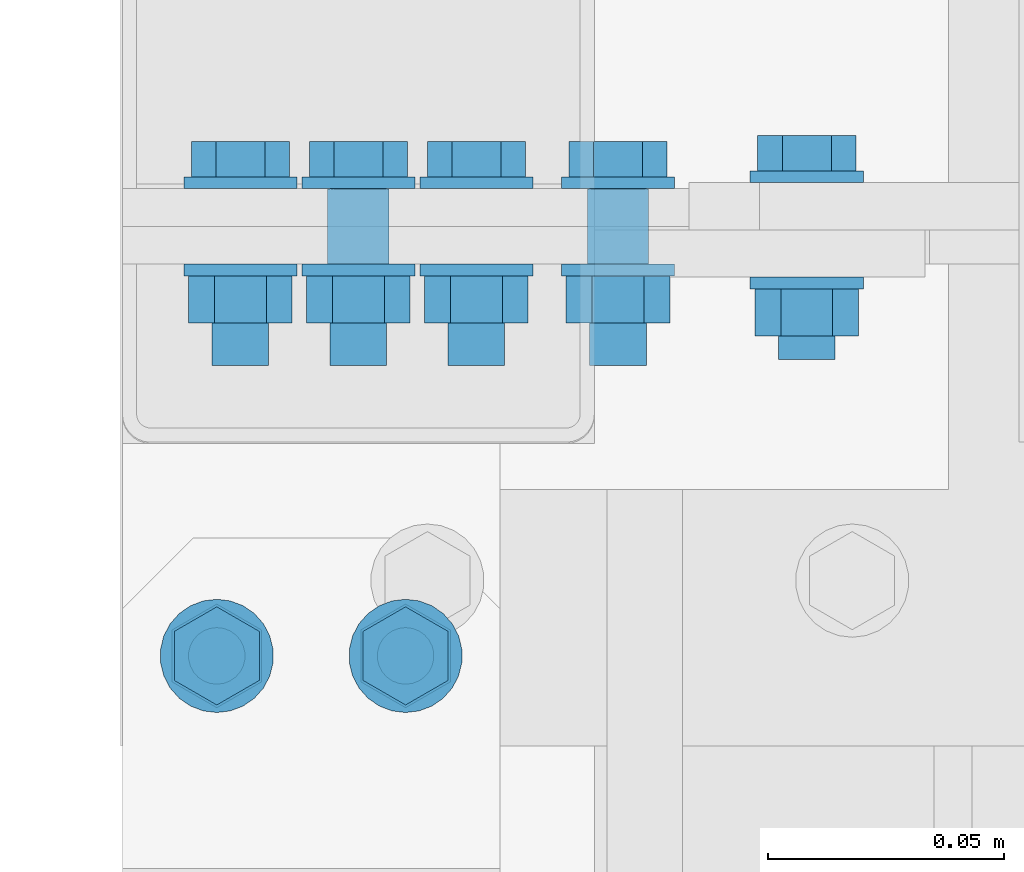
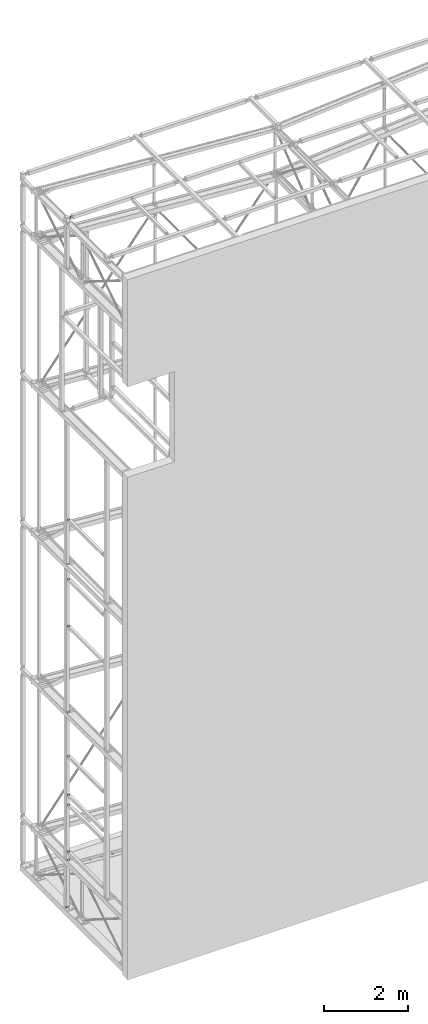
# One storey, part 235 of 271: 13 mechanical fasteners, 13 elements without a shape of their own.
"""IFC2X3 building model written with IfcOpenShell, lengths in millimetres."""

import ifcopenshell
import ifcopenshell.guid

model = None  # the IFC model being written
_history = None  # IfcOwnerHistory: only IFC2X3 demands one
_inside = {}  # id of a spatial element -> (the spatial element, [elements in it])
_under = {}  # id of a project, library or spatial element -> (it, [spatial elements below it])
_declared = {}  # id of a project -> (the project, [libraries it declares])
_typed = {}  # id of a type object -> (the type object, [elements of that type])
_made_of = {}  # id of a material, layer set ... -> (it, [elements and type objects made of it])


def new_model(schema):
    """Start an empty IFC model of exactly this schema.

    Asked for "IFC4X3", IfcOpenShell would pick the latest addendum, in which some entities
    have other attributes; the version numbers below select the first issue.
    IFC2X3 requires an IfcOwnerHistory on every rooted entity: one is made here for all.
    """
    global model, _history
    if schema == "IFC4X3":
        model = ifcopenshell.file(schema_version=(4, 3, 0, 0))
    else:
        model = ifcopenshell.file(schema=schema)
    _inside.clear()
    _under.clear()
    _declared.clear()
    _typed.clear()
    _made_of.clear()
    _history = None
    if model.schema == "IFC2X3":
        org = make("IfcOrganization", Name="unknown")
        user = make(
            "IfcPersonAndOrganization",
            ThePerson=make("IfcPerson", FamilyName="unknown"),
            TheOrganization=org,
        )
        app = make(
            "IfcApplication",
            ApplicationDeveloper=org,
            Version="unknown",
            ApplicationFullName="unknown",
            ApplicationIdentifier="unknown",
        )
        _history = make(
            "IfcOwnerHistory",
            OwningUser=user,
            OwningApplication=app,
            ChangeAction="ADDED",
            CreationDate=0,
        )
    return model


def make(cls, **values):
    """One entity of the class cls with the attributes given. An attribute that is None is left unset."""
    return model.create_entity(
        cls, **{name: value for name, value in values.items() if value is not None}
    )


def rooted(cls, **values):
    """An entity with a GlobalId (a new one), such as an element, a storey or a relation."""
    return make(cls, GlobalId=ifcopenshell.guid.new(), OwnerHistory=_history, **values)


def si_unit(unit_type, name, prefix=None):
    """IfcSIUnit, for example si_unit("LENGTHUNIT", "METRE", prefix="MILLI")."""
    return make("IfcSIUnit", UnitType=unit_type, Prefix=prefix, Name=name)


def assignment(units):
    """IfcUnitAssignment: the units of a project."""
    return None if units is None else make("IfcUnitAssignment", Units=units)


def point(xyz):
    """IfcCartesianPoint."""
    return None if xyz is None else make("IfcCartesianPoint", Coordinates=xyz)


def direction(xyz):
    """IfcDirection."""
    return None if xyz is None else make("IfcDirection", DirectionRatios=xyz)


def frame(location, z_axis=None, x_axis=None):
    """IfcAxis2Placement3D, a coordinate frame: its origin and axes. An axis left out is left unset."""
    return make(
        "IfcAxis2Placement3D",
        Location=point(location),
        Axis=direction(z_axis),
        RefDirection=direction(x_axis),
    )


def frame_2d(location, x_axis=None):
    """IfcAxis2Placement2D, a coordinate frame in the plane: its origin and x axis."""
    return make(
        "IfcAxis2Placement2D", Location=point(location), RefDirection=direction(x_axis)
    )


def origin_with_axes():
    """The frame at (0, 0, 0) with the z axis (0, 0, 1) and the x axis (1, 0, 0) written out."""
    return frame((0.0, 0.0, 0.0), z_axis=(0.0, 0.0, 1.0), x_axis=(1.0, 0.0, 0.0))


def origin_2d_with_axis():
    """The frame at (0, 0) in the plane with the x axis (1, 0) written out."""
    return frame_2d((0.0, 0.0), x_axis=(1.0, 0.0))


def place(relative_to, where):
    """IfcLocalPlacement: puts the frame where relative to a parent placement (None: the world)."""
    return make(
        "IfcLocalPlacement", PlacementRelTo=relative_to, RelativePlacement=where
    )


def context(
    kind, dimensions, precision=None, world=None, true_north=None, identifier=None
):
    """IfcGeometricRepresentationContext, for example the 3D "Model" context."""
    return make(
        "IfcGeometricRepresentationContext",
        ContextIdentifier=identifier,
        ContextType=kind,
        CoordinateSpaceDimension=dimensions,
        Precision=precision,
        WorldCoordinateSystem=world,
        TrueNorth=true_north,
    )


def subcontext(parent, identifier, kind, view, scale=None):
    """IfcGeometricRepresentationSubContext, for example "Body" below "Model"."""
    return make(
        "IfcGeometricRepresentationSubContext",
        ContextIdentifier=identifier,
        ContextType=kind,
        ParentContext=parent,
        TargetScale=scale,
        TargetView=view,
    )


def project(units=None, contexts=None):
    """IfcProject with its units and contexts."""
    return rooted(
        "IfcProject",
        Name="project",
        RepresentationContexts=contexts,
        UnitsInContext=assignment(units),
    )


def spatial(cls, under=None, at=None, **own):
    """A site, building, storey or space (cls), placed at a placement, below another one or the project."""
    s = rooted(cls, ObjectPlacement=at, **own)
    if under is not None:
        _under.setdefault(under.id(), (under, []))[1].append(s)
    return s


def polyline(points):
    """IfcPolyline through the points."""
    return make("IfcPolyline", Points=[point(p) for p in points])


def profile(cls, at=None, kind="AREA", **sizes):
    """A parametric profile (cls). Its sizes go by their IFC names, for example OverallWidth=200.0."""
    return make(cls, ProfileType=kind, Position=at, **sizes)


def circle(**sizes):
    """IfcCircleProfileDef."""
    return profile("IfcCircleProfileDef", **sizes)


def outline(outer, holes=None, kind="AREA"):
    """IfcArbitraryClosedProfileDef: a profile drawn as a closed curve; with holes, ...WithVoids."""
    if holes is None:
        return make("IfcArbitraryClosedProfileDef", ProfileType=kind, OuterCurve=outer)
    return make(
        "IfcArbitraryProfileDefWithVoids",
        ProfileType=kind,
        OuterCurve=outer,
        InnerCurves=holes,
    )


def extrude(swept, where, along, depth):
    """IfcExtrudedAreaSolid: the profile swept, set in the frame where, extruded along a direction by depth."""
    return make(
        "IfcExtrudedAreaSolid",
        SweptArea=swept,
        Position=where,
        ExtrudedDirection=direction(along),
        Depth=depth,
    )


def shape(context_of_items, identifier, shape_type, items):
    """IfcShapeRepresentation: the items that make up one representation, for example the "Body"."""
    return make(
        "IfcShapeRepresentation",
        ContextOfItems=context_of_items,
        RepresentationIdentifier=identifier,
        RepresentationType=shape_type,
        Items=items,
    )


def source(mapping_origin, context_of_items, identifier, shape_type, items):
    """IfcRepresentationMap: a shape defined once, which mapped items show again and again."""
    return make(
        "IfcRepresentationMap",
        MappingOrigin=mapping_origin,
        MappedRepresentation=shape(context_of_items, identifier, shape_type, items),
    )


def transform(
    local_origin,
    x_axis=None,
    y_axis=None,
    z_axis=None,
    scale=None,
    scale2=None,
    scale3=None,
    uniform=True,
):
    """IfcCartesianTransformationOperator3D, or its non-uniform kind. x_axis, y_axis, z_axis: its Axis1, 2, 3."""
    if uniform:
        return make(
            "IfcCartesianTransformationOperator3D",
            Axis1=direction(x_axis),
            Axis2=direction(y_axis),
            LocalOrigin=point(local_origin),
            Scale=scale,
            Axis3=direction(z_axis),
        )
    return make(
        "IfcCartesianTransformationOperator3DnonUniform",
        Axis1=direction(x_axis),
        Axis2=direction(y_axis),
        LocalOrigin=point(local_origin),
        Scale=scale,
        Axis3=direction(z_axis),
        Scale2=scale2,
        Scale3=scale3,
    )


def mapped(mapping_source, mapping_target):
    """IfcMappedItem: shows the shape of a source again, moved by a transform."""
    return make(
        "IfcMappedItem", MappingSource=mapping_source, MappingTarget=mapping_target
    )


def material(Name=None, Category=None):
    """IfcMaterial."""
    return make("IfcMaterial", Name=Name, Category=Category)


def made_of(thing, what):
    """Note that an element or type object is made of a material, layer set ...; save() writes the relation."""
    if what is not None:
        _made_of.setdefault(what.id(), (what, []))[1].append(thing)
    return thing


def type_object(cls, material=None, **own):
    """A type object (cls), such as IfcWallType, which elements share."""
    return made_of(rooted(cls, **own), material)


def element(
    cls,
    number,
    at=None,
    inside=None,
    cuts=None,
    type_object=None,
    material=None,
    context=None,
    identifier="Body",
    shape_type=None,
    held_by="IfcProductDefinitionShape",
    body=None,
    shapes=None,
    **own,
):
    """One element of the class cls, such as IfcWall. Its Tag is "e" and its number.

    at: its placement. inside: the storey or other place that contains it. cuts: it is an
    opening in that element (IfcRelVoidsElement). A single representation is given by context,
    identifier, shape_type and body (its items); several are given by shapes. held_by: the class
    of the entity that holds the representations. save() writes the other relations.
    """
    e = rooted(cls, Tag="e%d" % number, ObjectPlacement=at, **own)
    if body is not None:
        shapes = [shape(context, identifier, shape_type, body)]
    if shapes is not None:
        e.Representation = make(held_by, Representations=shapes)
    if inside is not None:
        _inside.setdefault(inside.id(), (inside, []))[1].append(e)
    if cuts is not None:
        rooted(
            "IfcRelVoidsElement", RelatingBuildingElement=cuts, RelatedOpeningElement=e
        )
    if type_object is not None:
        _typed.setdefault(type_object.id(), (type_object, []))[1].append(e)
    return made_of(e, material)


def aggregate(whole, parts):
    """IfcRelAggregates: a whole, such as a stair, and the parts it consists of."""
    return rooted("IfcRelAggregates", RelatingObject=whole, RelatedObjects=parts)


def save(model, path):
    """Write the relations noted so far, then the file.

    IfcRelAggregates (storeys below a building ...), IfcRelContainedInSpatialStructure (elements
    in a storey), IfcRelDefinesByType, IfcRelAssociatesMaterial and IfcRelDeclares: one each for
    every whole, place, type object, material and project.
    """
    for whole, parts in _under.values():
        aggregate(whole, parts)
    for where, things in _inside.values():
        rooted(
            "IfcRelContainedInSpatialStructure",
            RelatedElements=things,
            RelatingStructure=where,
        )
    for kind, things in _typed.values():
        rooted("IfcRelDefinesByType", RelatedObjects=things, RelatingType=kind)
    for what, things in _made_of.values():
        rooted("IfcRelAssociatesMaterial", RelatedObjects=things, RelatingMaterial=what)
    for by, libraries in _declared.values():
        rooted("IfcRelDeclares", RelatingContext=by, RelatedDefinitions=libraries)
    model.write(path)


model = new_model("IFC2X3")

# Units and contexts
model_context = context("Model", 3, precision=1e-05, world=origin_with_axes())
body_context = subcontext(model_context, "Body", "Model", "MODEL_VIEW")
ifc_project = project(units=[si_unit("LENGTHUNIT", "METRE", prefix="MILLI"), si_unit("AREAUNIT", "SQUARE_METRE"), si_unit("VOLUMEUNIT", "CUBIC_METRE"), si_unit("MASSUNIT", "GRAM", prefix="KILO"), si_unit("TIMEUNIT", "SECOND"), si_unit("PLANEANGLEUNIT", "RADIAN"), si_unit("SOLIDANGLEUNIT", "STERADIAN"), si_unit("THERMODYNAMICTEMPERATUREUNIT", "DEGREE_CELSIUS"), si_unit("LUMINOUSINTENSITYUNIT", "LUMEN")], contexts=[model_context])

# Site, building, storey
site_placement = place(None, origin_with_axes())
site = spatial("IfcSite", under=ifc_project, at=site_placement, Name="Undefined", CompositionType="ELEMENT")
building_placement = place(site_placement, origin_with_axes())
building = spatial("IfcBuilding", under=site, at=building_placement, Name="Undefined", CompositionType="ELEMENT")
storey_placement = place(building_placement, origin_with_axes())
storey = spatial("IfcBuildingStorey", under=building, at=storey_placement, Name="Undefined", CompositionType="ELEMENT", Elevation=0.0)

# Assembly, mechanical fastener
assembly_1_placement = place(storey_placement, origin_with_axes())
assembly_1 = element("IfcElementAssembly", 1, at=assembly_1_placement, inside=storey, AssemblyPlace="NOTDEFINED", PredefinedType="RIGID_FRAME")
ifc_material = material(Name="Undefined")
mechanical_fastener_type = type_object("IfcMechanicalFastenerType", Name="Bolt assembly")
shared_shape_1 = source(origin_with_axes(), body_context, "Body", "SweptSolid", [
    extrude(circle(Radius=6.5, at=origin_2d_with_axis()), frame((0.0, -0.099864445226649, 0.0), z_axis=(0.0, 1.0, 0.0), x_axis=(1.0, 0.0, 0.0)), (0.0, 0.0, 1.0), 8.1),
    extrude(circle(Radius=6.5, at=origin_2d_with_axis()), frame((0.0, -7.90000000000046, 0.0), z_axis=(0.0, 1.0, 0.0), x_axis=(1.0, 0.0, 0.0)), (0.0, 0.0, 1.0), 8.0),
    extrude(outline(polyline([(10.39230484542, 0.0), (5.19615242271, 9.00000000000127), (-5.19615242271, 9.00000000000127), (-10.39230484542, 0.0), (-5.19615242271, -9.00000000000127), (5.19615242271, -9.00000000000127), (10.39230484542, 0.0)])), frame((0.0, -18.0000000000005, 0.0), z_axis=(0.0, 1.0, 0.0), x_axis=(1.0, 0.0, 0.0)), (0.0, 0.0, 1.0), 7.5),
    extrude(circle(Radius=6.0, at=origin_2d_with_axis()), frame((0.0, -10.5000000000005, 0.0), z_axis=(0.0, 1.0, 0.0), x_axis=(1.0, 0.0, 0.0)), (0.0, 0.0, 1.0), 40.0),
    extrude(circle(Radius=12.0, at=origin_2d_with_axis()), frame((0.0, -10.5000000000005, 0.0), z_axis=(0.0, 1.0, 0.0), x_axis=(1.0, 0.0, 0.0)), (0.0, 0.0, 1.0), 2.5),
    extrude(circle(Radius=12.0, at=origin_2d_with_axis()), frame((0.0, 8.00013555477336, 0.0), z_axis=(0.0, 1.0, 0.0), x_axis=(1.0, 0.0, 0.0)), (0.0, 0.0, 1.0), 2.5),
    extrude(outline(polyline([(10.96965511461, 0.0), (5.484827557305, 9.50000000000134), (-5.484827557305, 9.50000000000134), (-10.96965511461, 0.0), (-5.484827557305, -9.50000000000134), (5.484827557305, -9.50000000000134), (10.96965511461, 0.0)])), frame((0.0, 10.5001355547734, 0.0), z_axis=(0.0, 1.0, 0.0), x_axis=(1.0, 0.0, 0.0)), (0.0, 0.0, 1.0), 10.0),
])
mechanical_fastener_1_placement = place(assembly_1_placement, frame((38.3756870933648, 2795.05225536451, 19978.8499999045), z_axis=(0.0, 0.0, -1.0), x_axis=(1.0, 0.0, 0.0)))
mechanical_fastener_1 = element("IfcMechanicalFastener", 2, at=mechanical_fastener_1_placement, type_object=mechanical_fastener_type, material=ifc_material, Name="Bolt assembly", NominalDiameter=12.0, NominalLength=40.0, context=body_context, shape_type="MappedRepresentation", body=[
    mapped(shared_shape_1, transform((0.0, 0.0, 0.0))),
    mapped(shared_shape_1, transform((55.0, 0.0, 0.0))),
])
aggregate(assembly_1, [mechanical_fastener_1])

assembly_2_placement = place(storey_placement, origin_with_axes())
assembly_2 = element("IfcElementAssembly", 3, at=assembly_2_placement, inside=storey, AssemblyPlace="NOTDEFINED", PredefinedType="RIGID_FRAME")
mechanical_fastener_2_placement = place(assembly_2_placement, frame((13.3756870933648, 2795.05225536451, 37.8499999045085), z_axis=(0.0, 0.0, -1.0), x_axis=(1.0, 0.0, 0.0)))
mechanical_fastener_2 = element("IfcMechanicalFastener", 4, at=mechanical_fastener_2_placement, type_object=mechanical_fastener_type, material=ifc_material, Name="Bolt assembly", NominalDiameter=12.0, NominalLength=40.0, context=body_context, shape_type="MappedRepresentation", body=[
    mapped(shared_shape_1, transform((0.0, 0.0, 0.0))),
    mapped(shared_shape_1, transform((50.0, 0.0, 0.0))),
])
aggregate(assembly_2, [mechanical_fastener_2])

assembly_3_placement = place(storey_placement, origin_with_axes())
assembly_3 = element("IfcElementAssembly", 5, at=assembly_3_placement, inside=storey, AssemblyPlace="NOTDEFINED", PredefinedType="RIGID_FRAME")
shared_shape_2 = source(origin_with_axes(), body_context, "Body", "SweptSolid", [
    extrude(circle(Radius=6.5, at=origin_2d_with_axis()), frame((0.0, -5.1, 0.0), z_axis=(0.0, 1.0, 0.0), x_axis=(1.0, 0.0, 0.0)), (0.0, 0.0, 1.0), 10.1),
    extrude(circle(Radius=6.5, at=origin_2d_with_axis()), frame((0.0, -14.9000000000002, 0.0), z_axis=(0.0, 1.0, 0.0), x_axis=(1.0, 0.0, 0.0)), (0.0, 0.0, 1.0), 10.0),
    extrude(outline(polyline([(10.39230484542, 0.0), (5.19615242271, 9.00000000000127), (-5.19615242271, 9.00000000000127), (-10.39230484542, 0.0), (-5.19615242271, -9.00000000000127), (5.19615242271, -9.00000000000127), (10.39230484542, 0.0)])), frame((0.0, -25.0000000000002, 0.0), z_axis=(0.0, 1.0, 0.0), x_axis=(1.0, 0.0, 0.0)), (0.0, 0.0, 1.0), 7.5),
    extrude(circle(Radius=6.0, at=origin_2d_with_axis()), frame((0.0, -17.5000000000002, 0.0), z_axis=(0.0, 1.0, 0.0), x_axis=(1.0, 0.0, 0.0)), (0.0, 0.0, 1.0), 40.0),
    extrude(circle(Radius=12.0, at=origin_2d_with_axis()), frame((0.0, -17.5000000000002, 0.0), z_axis=(0.0, 1.0, 0.0), x_axis=(1.0, 0.0, 0.0)), (0.0, 0.0, 1.0), 2.5),
    extrude(circle(Radius=12.0, at=origin_2d_with_axis()), frame((0.0, 5.00000000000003, 0.0), z_axis=(0.0, 1.0, 0.0), x_axis=(1.0, 0.0, 0.0)), (0.0, 0.0, 1.0), 2.5),
    extrude(outline(polyline([(10.96965511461, 0.0), (5.484827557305, 9.50000000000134), (-5.484827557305, 9.50000000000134), (-10.96965511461, 0.0), (-5.484827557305, -9.50000000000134), (5.484827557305, -9.50000000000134), (10.96965511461, 0.0)])), frame((0.0, 7.50000000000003, 0.0), z_axis=(0.0, 1.0, 0.0), x_axis=(1.0, 0.0, 0.0)), (0.0, 0.0, 1.0), 10.0),
])
mechanical_fastener_3_placement = place(assembly_3_placement, frame((28.375687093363, 2704.05211980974, 4488.8500000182), z_axis=(1.0, 0.0, 0.0), x_axis=(0.0, -1.0, 0.0)))
mechanical_fastener_3 = element("IfcMechanicalFastener", 6, at=mechanical_fastener_3_placement, type_object=mechanical_fastener_type, material=ifc_material, Name="Bolt assembly", NominalDiameter=12.0, NominalLength=40.0, context=body_context, shape_type="MappedRepresentation", body=[
    mapped(shared_shape_2, transform((0.0, 0.0, -20.0))),
    mapped(shared_shape_2, transform((0.0, 0.0, 20.0))),
])
aggregate(assembly_3, [mechanical_fastener_3])

assembly_4_placement = place(storey_placement, origin_with_axes())
assembly_4 = element("IfcElementAssembly", 7, at=assembly_4_placement, inside=storey, AssemblyPlace="NOTDEFINED", PredefinedType="RIGID_FRAME")
mechanical_fastener_4_placement = place(assembly_4_placement, frame((28.375687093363, 2704.05211980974, 3368.8500000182), z_axis=(-1.0, 0.0, 1.38777878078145e-17), x_axis=(0.0, -1.0, 0.0)))
mechanical_fastener_4 = element("IfcMechanicalFastener", 8, at=mechanical_fastener_4_placement, type_object=mechanical_fastener_type, material=ifc_material, Name="Bolt assembly", NominalDiameter=12.0, NominalLength=40.0, context=body_context, shape_type="MappedRepresentation", body=[
    mapped(shared_shape_2, transform((0.0, 0.0, -20.0))),
    mapped(shared_shape_2, transform((0.0, 0.0, 20.0))),
])
aggregate(assembly_4, [mechanical_fastener_4])

assembly_5_placement = place(storey_placement, origin_with_axes())
assembly_5 = element("IfcElementAssembly", 9, at=assembly_5_placement, inside=storey, AssemblyPlace="NOTDEFINED", PredefinedType="RIGID_FRAME")
mechanical_fastener_5_placement = place(assembly_5_placement, frame((28.375687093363, 2704.05211980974, 3069.3500000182), z_axis=(1.0, 0.0, 0.0), x_axis=(0.0, -1.0, 0.0)))
mechanical_fastener_5 = element("IfcMechanicalFastener", 10, at=mechanical_fastener_5_placement, type_object=mechanical_fastener_type, material=ifc_material, Name="Bolt assembly", NominalDiameter=12.0, NominalLength=40.0, context=body_context, shape_type="MappedRepresentation", body=[
    mapped(shared_shape_2, transform((0.0, 0.0, -20.0))),
    mapped(shared_shape_2, transform((0.0, 0.0, 20.0))),
])
aggregate(assembly_5, [mechanical_fastener_5])

assembly_6_placement = place(storey_placement, origin_with_axes())
assembly_6 = element("IfcElementAssembly", 11, at=assembly_6_placement, inside=storey, AssemblyPlace="NOTDEFINED", PredefinedType="RIGID_FRAME")
mechanical_fastener_6_placement = place(assembly_6_placement, frame((28.375687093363, 2704.05211980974, 1709.3500000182), z_axis=(-1.0, 0.0, 1.38777878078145e-17), x_axis=(0.0, -1.0, 0.0)))
mechanical_fastener_6 = element("IfcMechanicalFastener", 12, at=mechanical_fastener_6_placement, type_object=mechanical_fastener_type, material=ifc_material, Name="Bolt assembly", NominalDiameter=12.0, NominalLength=40.0, context=body_context, shape_type="MappedRepresentation", body=[
    mapped(shared_shape_2, transform((0.0, 0.0, -20.0))),
    mapped(shared_shape_2, transform((0.0, 0.0, 20.0))),
])
aggregate(assembly_6, [mechanical_fastener_6])

assembly_7_placement = place(storey_placement, origin_with_axes())
assembly_7 = element("IfcElementAssembly", 13, at=assembly_7_placement, inside=storey, AssemblyPlace="NOTDEFINED", PredefinedType="RIGID_FRAME")
mechanical_fastener_7_placement = place(assembly_7_placement, frame((28.375687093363, 2704.05211980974, 9659.84999990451), z_axis=(1.0, 0.0, 0.0), x_axis=(0.0, -1.0, 0.0)))
mechanical_fastener_7 = element("IfcMechanicalFastener", 14, at=mechanical_fastener_7_placement, type_object=mechanical_fastener_type, material=ifc_material, Name="Bolt assembly", NominalDiameter=12.0, NominalLength=40.0, context=body_context, shape_type="MappedRepresentation", body=[
    mapped(shared_shape_2, transform((0.0, 0.0, -20.0))),
    mapped(shared_shape_2, transform((0.0, 0.0, 20.0))),
])
aggregate(assembly_7, [mechanical_fastener_7])

assembly_8_placement = place(storey_placement, origin_with_axes())
assembly_8 = element("IfcElementAssembly", 15, at=assembly_8_placement, inside=storey, AssemblyPlace="NOTDEFINED", PredefinedType="RIGID_FRAME")
mechanical_fastener_8_placement = place(assembly_8_placement, frame((28.375687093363, 2704.05211980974, 8299.84999990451), z_axis=(-1.0, 0.0, 1.38777878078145e-17), x_axis=(0.0, -1.0, 0.0)))
mechanical_fastener_8 = element("IfcMechanicalFastener", 16, at=mechanical_fastener_8_placement, type_object=mechanical_fastener_type, material=ifc_material, Name="Bolt assembly", NominalDiameter=12.0, NominalLength=40.0, context=body_context, shape_type="MappedRepresentation", body=[
    mapped(shared_shape_2, transform((0.0, 0.0, -20.0))),
    mapped(shared_shape_2, transform((0.0, 0.0, 20.0))),
])
aggregate(assembly_8, [mechanical_fastener_8])

assembly_9_placement = place(storey_placement, origin_with_axes())
assembly_9 = element("IfcElementAssembly", 17, at=assembly_9_placement, inside=storey, AssemblyPlace="NOTDEFINED", PredefinedType="RIGID_FRAME")
mechanical_fastener_9_placement = place(assembly_9_placement, frame((28.375687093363, 2704.05211980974, 11401.8499999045), z_axis=(1.0, 0.0, 0.0), x_axis=(0.0, -1.0, 0.0)))
mechanical_fastener_9 = element("IfcMechanicalFastener", 18, at=mechanical_fastener_9_placement, type_object=mechanical_fastener_type, material=ifc_material, Name="Bolt assembly", NominalDiameter=12.0, NominalLength=40.0, context=body_context, shape_type="MappedRepresentation", body=[
    mapped(shared_shape_2, transform((0.0, 0.0, -20.0))),
    mapped(shared_shape_2, transform((0.0, 0.0, 20.0))),
])
aggregate(assembly_9, [mechanical_fastener_9])

assembly_10_placement = place(storey_placement, origin_with_axes())
assembly_10 = element("IfcElementAssembly", 19, at=assembly_10_placement, inside=storey, AssemblyPlace="NOTDEFINED", PredefinedType="RIGID_FRAME")
mechanical_fastener_10_placement = place(assembly_10_placement, frame((133.375687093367, 2789.32498425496, 20154.3499999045), z_axis=(0.0, 0.0, -1.0), x_axis=(1.0, 0.0, 0.0)))
mechanical_fastener_10 = element("IfcMechanicalFastener", 20, at=mechanical_fastener_10_placement, type_object=mechanical_fastener_type, material=ifc_material, Name="Bolt assembly", NominalDiameter=12.0, NominalLength=40.0, context=body_context, shape_type="MappedRepresentation", body=[
    mapped(shared_shape_2, transform((0.0, 0.0, -25.0))),
    mapped(shared_shape_2, transform((0.0, 0.0, 25.0))),
])
aggregate(assembly_10, [mechanical_fastener_10])

assembly_11_placement = place(storey_placement, origin_with_axes())
assembly_11 = element("IfcElementAssembly", 21, at=assembly_11_placement, inside=storey, AssemblyPlace="NOTDEFINED", PredefinedType="RIGID_FRAME")
shared_shape_3 = source(origin_with_axes(), body_context, "Body", "SweptSolid", [
    extrude(circle(Radius=6.5, at=origin_2d_with_axis()), frame((0.0, 7.89999999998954, 0.0), z_axis=(0.0, 1.0, 0.0), x_axis=(1.0, 0.0, 0.0)), (0.0, 0.0, 1.0), 8.1),
    extrude(circle(Radius=6.5, at=origin_2d_with_axis()), frame((0.0, 0.0999999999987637, 0.0), z_axis=(0.0, 1.0, 0.0), x_axis=(1.0, 0.0, 0.0)), (0.0, 0.0, 1.0), 8.0),
    extrude(outline(polyline([(10.39230484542, 0.0), (5.19615242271, 9.00000000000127), (-5.19615242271, 9.00000000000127), (-10.39230484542, 0.0), (-5.19615242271, -9.00000000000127), (5.19615242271, -9.00000000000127), (10.39230484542, 0.0)])), frame((0.0, -10.0, 0.0), z_axis=(0.0, 1.0, 0.0), x_axis=(1.0, 0.0, 0.0)), (0.0, 0.0, 1.0), 7.5),
    extrude(circle(Radius=6.0, at=origin_2d_with_axis()), frame((0.0, -2.50000000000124, 0.0), z_axis=(0.0, 1.0, 0.0), x_axis=(1.0, 0.0, 0.0)), (0.0, 0.0, 1.0), 40.0),
    extrude(circle(Radius=12.0, at=origin_2d_with_axis()), frame((0.0, -2.50000000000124, 0.0), z_axis=(0.0, 1.0, 0.0), x_axis=(1.0, 0.0, 0.0)), (0.0, 0.0, 1.0), 2.5),
    extrude(circle(Radius=12.0, at=origin_2d_with_axis()), frame((0.0, 16.0, 0.0), z_axis=(0.0, 1.0, 0.0), x_axis=(1.0, 0.0, 0.0)), (0.0, 0.0, 1.0), 2.5),
    extrude(outline(polyline([(10.96965511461, 0.0), (5.484827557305, 9.50000000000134), (-5.484827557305, 9.50000000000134), (-10.96965511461, 0.0), (-5.484827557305, -9.50000000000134), (5.484827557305, -9.50000000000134), (10.96965511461, 0.0)])), frame((0.0, 18.5, 0.0), z_axis=(0.0, 1.0, 0.0), x_axis=(1.0, 0.0, 0.0)), (0.0, 0.0, 1.0), 10.0),
])
mechanical_fastener_11_placement = place(assembly_11_placement, frame((38.3756870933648, 2803.05211980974, 10046.8499999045), z_axis=(0.0, 0.0, -1.0), x_axis=(1.0, 0.0, 0.0)))
mechanical_fastener_11 = element("IfcMechanicalFastener", 22, at=mechanical_fastener_11_placement, type_object=mechanical_fastener_type, material=ifc_material, Name="Bolt assembly", NominalDiameter=12.0, NominalLength=40.0, context=body_context, shape_type="MappedRepresentation", body=[
    mapped(shared_shape_3, transform((0.0, 0.0, 0.0))),
    mapped(shared_shape_3, transform((55.0, 0.0, 0.0))),
])
aggregate(assembly_11, [mechanical_fastener_11])

assembly_12_placement = place(storey_placement, origin_with_axes())
assembly_12 = element("IfcElementAssembly", 23, at=assembly_12_placement, inside=storey, AssemblyPlace="NOTDEFINED", PredefinedType="RIGID_FRAME")
mechanical_fastener_12_placement = place(assembly_12_placement, frame((38.3756870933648, 2803.05211980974, 5726.84999990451), z_axis=(0.0, 0.0, -1.0), x_axis=(1.0, 0.0, 0.0)))
mechanical_fastener_12 = element("IfcMechanicalFastener", 24, at=mechanical_fastener_12_placement, type_object=mechanical_fastener_type, material=ifc_material, Name="Bolt assembly", NominalDiameter=12.0, NominalLength=40.0, context=body_context, shape_type="MappedRepresentation", body=[
    mapped(shared_shape_3, transform((0.0, 0.0, 0.0))),
    mapped(shared_shape_3, transform((55.0, 0.0, 0.0))),
])
aggregate(assembly_12, [mechanical_fastener_12])

assembly_13_placement = place(storey_placement, origin_with_axes())
assembly_13 = element("IfcElementAssembly", 25, at=assembly_13_placement, inside=storey, AssemblyPlace="NOTDEFINED", PredefinedType="RIGID_FRAME")
mechanical_fastener_13_placement = place(assembly_13_placement, frame((38.3756870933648, 2803.05211980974, 1406.84999990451), z_axis=(0.0, 0.0, -1.0), x_axis=(1.0, 0.0, 0.0)))
mechanical_fastener_13 = element("IfcMechanicalFastener", 26, at=mechanical_fastener_13_placement, type_object=mechanical_fastener_type, material=ifc_material, Name="Bolt assembly", NominalDiameter=12.0, NominalLength=40.0, context=body_context, shape_type="MappedRepresentation", body=[
    mapped(shared_shape_3, transform((0.0, 0.0, 0.0))),
    mapped(shared_shape_3, transform((55.0, 0.0, 0.0))),
])
aggregate(assembly_13, [mechanical_fastener_13])

save(model, "model.ifc")
